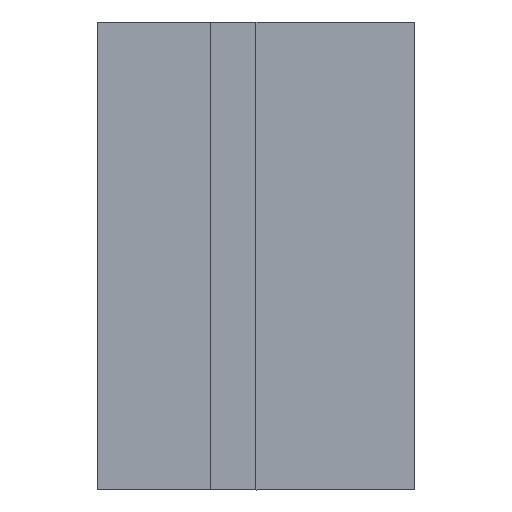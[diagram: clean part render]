
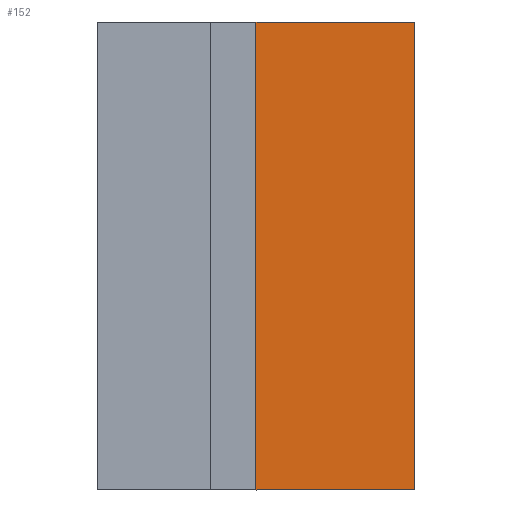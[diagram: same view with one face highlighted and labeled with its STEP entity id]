
A CAD part, top view. The second image highlights one B-rep face of the part: STEP entity #152.
In plain terms, the highlighted planar face has unit normal (0, 0, 1).
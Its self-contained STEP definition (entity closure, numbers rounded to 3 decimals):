
#22=FACE_OUTER_BOUND('',#30,.T.);
#30=EDGE_LOOP('',(#115,#116,#117,#118));
#34=LINE('',#232,#50);
#46=LINE('',#259,#62);
#47=LINE('',#261,#63);
#48=LINE('',#262,#64);
#50=VECTOR('',#193,10.);
#62=VECTOR('',#217,10.);
#63=VECTOR('',#220,10.);
#64=VECTOR('',#221,10.);
#66=VERTEX_POINT('',#229);
#67=VERTEX_POINT('',#231);
#75=VERTEX_POINT('',#255);
#76=VERTEX_POINT('',#257);
#78=EDGE_CURVE('',#66,#67,#34,.T.);
#92=EDGE_CURVE('',#75,#76,#46,.T.);
#93=EDGE_CURVE('',#66,#75,#47,.T.);
#94=EDGE_CURVE('',#67,#76,#48,.T.);
#115=ORIENTED_EDGE('',*,*,#93,.T.);
#116=ORIENTED_EDGE('',*,*,#92,.T.);
#117=ORIENTED_EDGE('',*,*,#94,.F.);
#118=ORIENTED_EDGE('',*,*,#78,.F.);
#135=PLANE('',#185);
#152=ADVANCED_FACE('',(#22),#135,.T.);
#185=AXIS2_PLACEMENT_3D('',#260,#218,#219);
#193=DIRECTION('',(0.,1.,0.));
#217=DIRECTION('',(0.,1.,0.));
#218=DIRECTION('center_axis',(0.,0.,1.));
#219=DIRECTION('ref_axis',(1.,0.,0.));
#220=DIRECTION('',(1.,0.,0.));
#221=DIRECTION('',(1.,0.,0.));
#229=CARTESIAN_POINT('',(0.,0.,-7.126));
#231=CARTESIAN_POINT('',(0.,55.,-7.126));
#232=CARTESIAN_POINT('',(0.,0.,-7.126));
#255=CARTESIAN_POINT('',(18.688,0.,-7.126));
#257=CARTESIAN_POINT('',(18.688,55.,-7.126));
#259=CARTESIAN_POINT('',(18.688,0.,-7.126));
#260=CARTESIAN_POINT('Origin',(0.,0.,-7.126));
#261=CARTESIAN_POINT('',(0.,0.,-7.126));
#262=CARTESIAN_POINT('',(0.,55.,-7.126));
